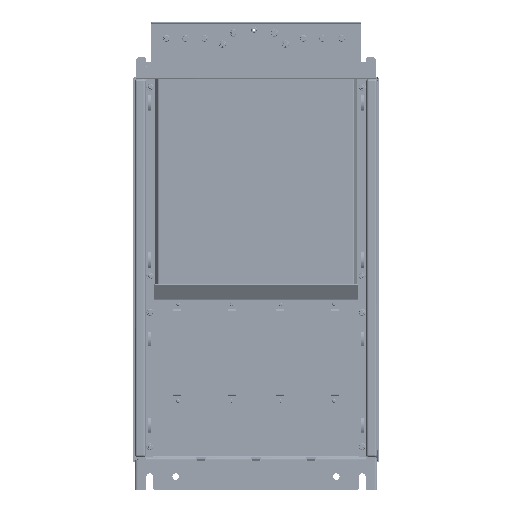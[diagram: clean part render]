
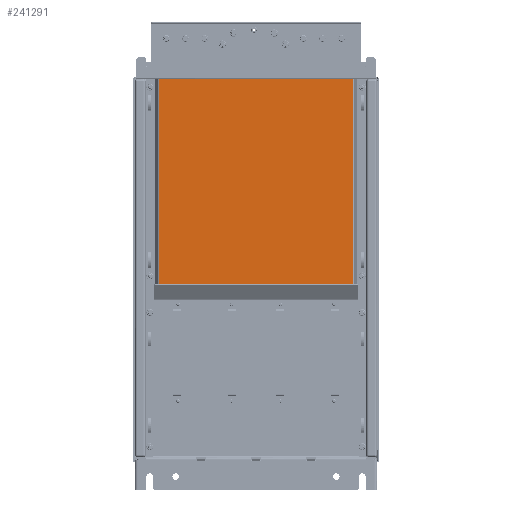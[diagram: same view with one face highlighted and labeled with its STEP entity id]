
A CAD part, front view. The second image highlights one B-rep face of the part: STEP entity #241291.
In plain terms, the highlighted planar face has unit normal (0, -1, 0).
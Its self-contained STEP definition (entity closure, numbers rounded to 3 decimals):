
#119 = VERTEX_POINT ( 'NONE', #151689 ) ;
#633 = CARTESIAN_POINT ( 'NONE',  ( 123.059, 0., 240. ) ) ;
#1116 = EDGE_LOOP ( 'NONE', ( #24246, #253981, #297532, #15759 ) ) ;
#3338 = EDGE_CURVE ( 'NONE', #104650, #33334, #84339, .T. ) ;
#15037 = EDGE_CURVE ( 'NONE', #119, #57524, #281793, .T. ) ;
#15048 = CARTESIAN_POINT ( 'NONE',  ( -123.059, 0., -20.463 ) ) ;
#15321 = VECTOR ( 'NONE', #17164, 1000. ) ;
#15541 = EDGE_CURVE ( 'NONE', #119, #33334, #77495, .T. ) ;
#15759 = ORIENTED_EDGE ( 'NONE', *, *, #3338, .T. ) ;
#17164 = DIRECTION ( 'NONE',  ( 0., 0., 1. ) ) ;
#19195 = EDGE_CURVE ( 'NONE', #104650, #57524, #174821, .T. ) ;
#24246 = ORIENTED_EDGE ( 'NONE', *, *, #15541, .F. ) ;
#33334 = VERTEX_POINT ( 'NONE', #103293 ) ;
#57524 = VERTEX_POINT ( 'NONE', #275074 ) ;
#59599 = CARTESIAN_POINT ( 'NONE',  ( 124.517, 0., 240. ) ) ;
#69751 = VECTOR ( 'NONE', #237431, 1000. ) ;
#77495 = LINE ( 'NONE', #15048, #15321 ) ;
#84339 = LINE ( 'NONE', #238424, #69751 ) ;
#99676 = DIRECTION ( 'NONE',  ( 1., 0., 0. ) ) ;
#102694 = CARTESIAN_POINT ( 'NONE',  ( 125.865, 0., -20. ) ) ;
#103293 = CARTESIAN_POINT ( 'NONE',  ( -123.059, 0., 240. ) ) ;
#104650 = VERTEX_POINT ( 'NONE', #633 ) ;
#105374 = FACE_OUTER_BOUND ( 'NONE', #1116, .T. ) ;
#129932 = DIRECTION ( 'NONE',  ( 0., -1., 0. ) ) ;
#151689 = CARTESIAN_POINT ( 'NONE',  ( -123.059, 0., -20. ) ) ;
#153173 = CARTESIAN_POINT ( 'NONE',  ( 123.059, 0., -20.463 ) ) ;
#154142 = DIRECTION ( 'NONE',  ( 0., 0., -1. ) ) ;
#167491 = VECTOR ( 'NONE', #154142, 1000. ) ;
#174821 = LINE ( 'NONE', #153173, #167491 ) ;
#212914 = VECTOR ( 'NONE', #99676, 1000. ) ;
#237431 = DIRECTION ( 'NONE',  ( -1., 0., 0. ) ) ;
#238424 = CARTESIAN_POINT ( 'NONE',  ( 0., 0., 240. ) ) ;
#241291 = ADVANCED_FACE ( 'NONE', ( #105374 ), #246226, .T. ) ;
#246226 = PLANE ( 'NONE',  #285105 ) ;
#253981 = ORIENTED_EDGE ( 'NONE', *, *, #15037, .T. ) ;
#275074 = CARTESIAN_POINT ( 'NONE',  ( 123.059, 0., -20. ) ) ;
#281793 = LINE ( 'NONE', #102694, #212914 ) ;
#285105 = AXIS2_PLACEMENT_3D ( 'NONE', #59599, #129932, #292798 ) ;
#292798 = DIRECTION ( 'NONE',  ( 0., 0., -1. ) ) ;
#297532 = ORIENTED_EDGE ( 'NONE', *, *, #19195, .F. ) ;
